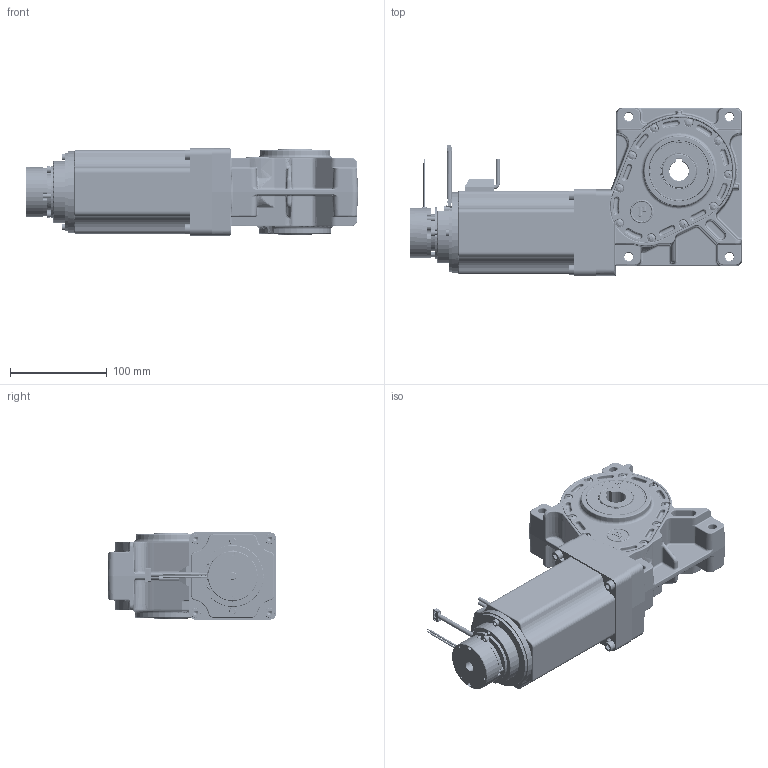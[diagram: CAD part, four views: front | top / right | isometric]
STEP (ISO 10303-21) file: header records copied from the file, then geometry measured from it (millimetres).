
FILE_DESCRIPTION (( 'STEP AP214' ), '1' );
FILE_NAME ('PBL86-80-GB65 - Encoder - Brake.STEP', '2024-09-16T10:55:13', ( '' ), ( '' ), 'SwSTEP 2.0', 'SolidWorks 2023', '' );
FILE_SCHEMA (( 'AUTOMOTIVE_DESIGN' ));
Length unit declared in the file: millimetre
Products named in the file (1): PBL86-80-GB65 - Encoder - Brake
Bounding box: 342.69 x 174.1 x 90 mm (x, y, z)
Surface area: 430374.5 mm2 (no closed solid volume)
Topology: 0 solids, 92 shells, 8825 faces, 23055 edges, 14443 vertices
Faces by surface type: cylinder 3158, plane 2663, bspline 1318, cone 796, torus 730, sphere 160
Entity records: 449431 total; most frequent: CARTESIAN_POINT 152296, ORIENTED_EDGE 45504, DIRECTION 36744, EDGE_CURVE 22754, AXIS2_PLACEMENT_3D 14944, VERTEX_POINT 14423, EDGE_LOOP 9437, UNCERTAINTY_MEASURE_WITH_UNIT 8889
